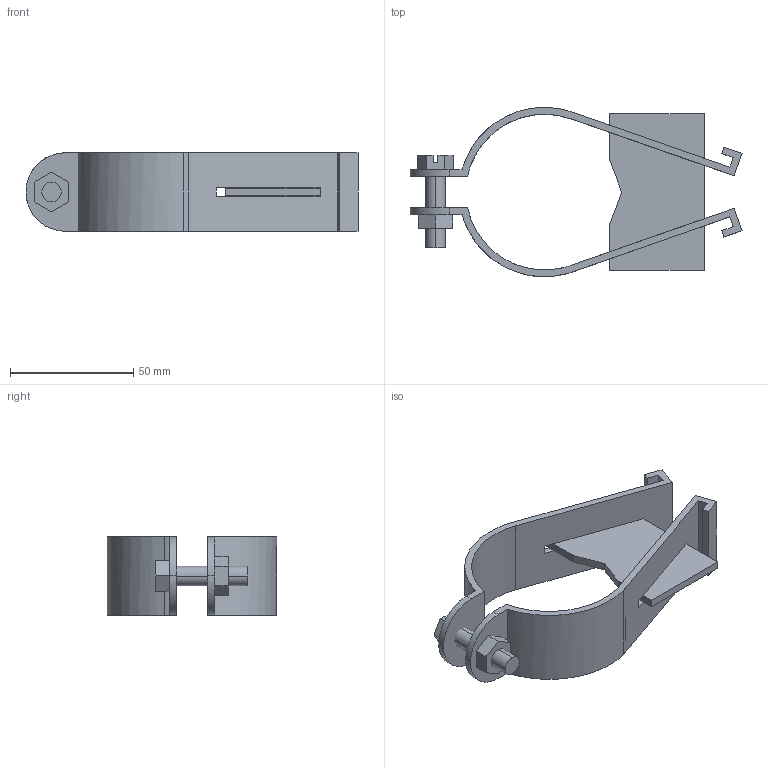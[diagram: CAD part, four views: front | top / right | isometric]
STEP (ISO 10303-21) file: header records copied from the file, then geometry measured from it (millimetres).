
FILE_DESCRIPTION(('TurboCAD Mac Pro'),'Build 980');
FILE_NAME('P1569.stp',' ',(''),(''),'ACIS Interop','IMSI','TurboCAD Mac Pro BY IMSI, INCORPORATED');
FILE_SCHEMA(('automotive_design'));
Length unit declared in the file: inch
Products named in the file (6): 1; 2; 3; 4; 5; 6
Bounding box: 134.47 x 68.59 x 31.74 mm (x, y, z)
Volume: 37055.3 mm3; surface area: 29270.5 mm2
Topology: 6 solids, 6 shells, 82 faces, 210 edges, 140 vertices
Faces by surface type: plane 61, bspline 21
Entity records: 3412 total; most frequent: CARTESIAN_POINT 731, ORIENTED_EDGE 420, DIRECTION 322, EDGE_CURVE 210, LINE 168, VECTOR 168, VERTEX_POINT 140, STYLED_ITEM 88
